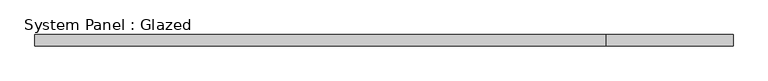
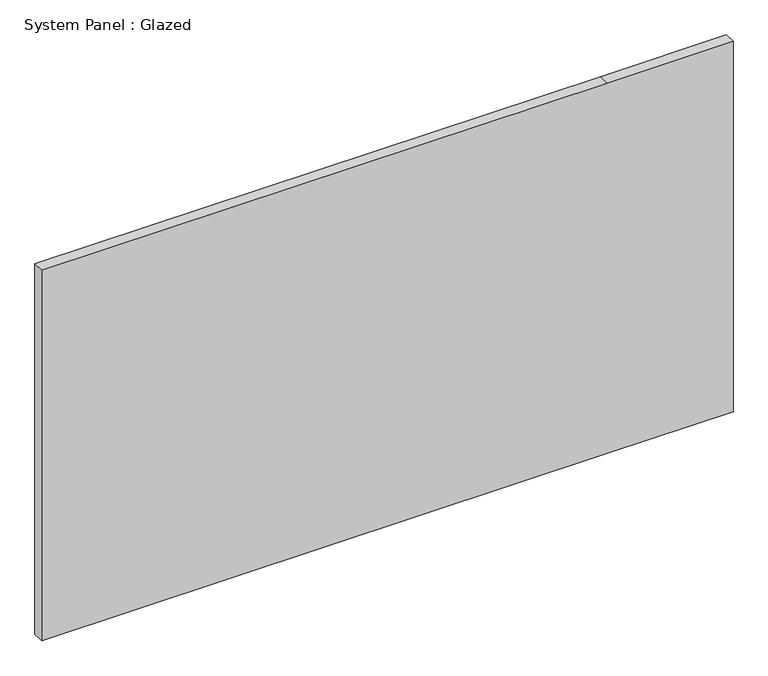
"""IFC4 building model written with IfcOpenShell, lengths in millimetres: plate geometry, System Panel : Glazed."""

from ifc_helpers import new_model, si_unit, frame, origin, place, context, project, spatial, polyline, outline, extrude, source, transform, mapped, element, save


def system_panel_glazed_561e95a3(model_context):
    return source(origin(), model_context, "Body", "SweptSolid", [
        extrude(outline(polyline([(0.0, -768.35), (0.0, 488.95), (0.0, 768.35), (869.95, 768.35), (869.95, 488.95), (869.95, -768.35), (0.0, -768.35)])), frame((0.0, -44.45, 0.0), z_axis=(0.0, 1.0, 0.0), x_axis=(0.0, 0.0, 1.0)), (0.0, 0.0, 1.0), 25.4),
    ])


if __name__ == "__main__":
    model = new_model("IFC4")
    model_context = context("Model", 3, world=origin())
    ifc_project = project(units=[si_unit("LENGTHUNIT", "METRE", prefix="MILLI")], contexts=[model_context])
    site = spatial("IfcSite", under=ifc_project)
    building = spatial("IfcBuilding", under=site)
    placement = place(None, origin())
    system_panel_glazed_shape = system_panel_glazed_561e95a3(model_context)
    element("IfcPlate", 1, ObjectType="System Panel : Glazed", at=placement, inside=building, context=model_context, shape_type="MappedRepresentation", body=[
        mapped(system_panel_glazed_shape, transform((0.0, 0.0, 0.0), x_axis=(1.0, 0.0, 0.0), y_axis=(0.0, 1.0, 0.0), z_axis=(0.0, 0.0, 1.0))),
    ])
    save(model, "model.ifc")
